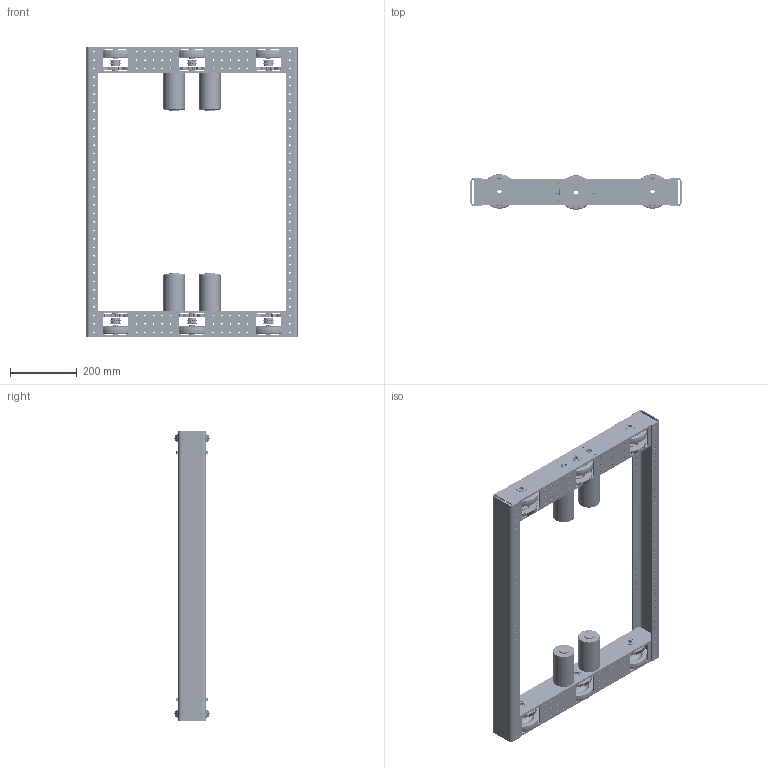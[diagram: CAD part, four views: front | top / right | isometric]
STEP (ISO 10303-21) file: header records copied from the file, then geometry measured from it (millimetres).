
FILE_DESCRIPTION (( 'STEP AP214' ), '1' );
FILE_NAME ('WestCoastDrive.STEP', '2017-01-06T04:21:56', ( 'Steward' ), ( '' ), 'SwSTEP 2.0', 'SolidWorks 2016', '' );
FILE_SCHEMA (( 'AUTOMOTIVE_DESIGN' ));
Length unit declared in the file: inch
Products named in the file (13): WheelASM; #25 16T Hub Sprocket .5 Hex 217-2642; 13.CIM.VP217-3414; 72.hex500.VP217-2716; Tube; WheelASM1; WestCoastDrive; Colson 4x0.875 Hex 217-4049; CIM 217-2000; 0.5 Hex ID 1.125OD Bearing R6 VEX-217-2734; DriveTube; EndPiece; WheelASM2
Assembly tree (30 placements, depth 4):
  WestCoastDrive
    DriveTube  x2
      Tube
      WheelASM
        0.5 Hex ID 1.125OD Bearing R6 VEX-217-2734  x2
        72.hex500.VP217-2716
        Colson 4x0.875 Hex 217-4049
        #25 16T Hub Sprocket .5 Hex 217-2642  x2
      WheelASM1
        0.5 Hex ID 1.125OD Bearing R6 VEX-217-2734  x2
        72.hex500.VP217-2716
        Colson 4x0.875 Hex 217-4049
        #25 16T Hub Sprocket .5 Hex 217-2642  x2
      WheelASM2
        0.5 Hex ID 1.125OD Bearing R6 VEX-217-2734  x2
        72.hex500.VP217-2716
        Colson 4x0.875 Hex 217-4049
        #25 16T Hub Sprocket .5 Hex 217-2642  x2
      CIM 217-2000
      13.CIM.VP217-3414
    EndPiece  x2
Bounding box: 629.95 x 104.78 x 866.77 mm (x, y, z)
Volume: 4377573 mm3; surface area: 1588746.3 mm2
Topology: 48 solids, 48 shells, 5296 faces, 14992 edges, 9924 vertices
Faces by surface type: cylinder 2992, plane 1096, cone 584, bspline 552, torus 72
Entity records: 61247 total; most frequent: CARTESIAN_POINT 34513, ORIENTED_EDGE 5546, DIRECTION 5339, EDGE_CURVE 2773, AXIS2_PLACEMENT_3D 2140, VERTEX_POINT 1834, EDGE_LOOP 1367, CIRCLE 1222
